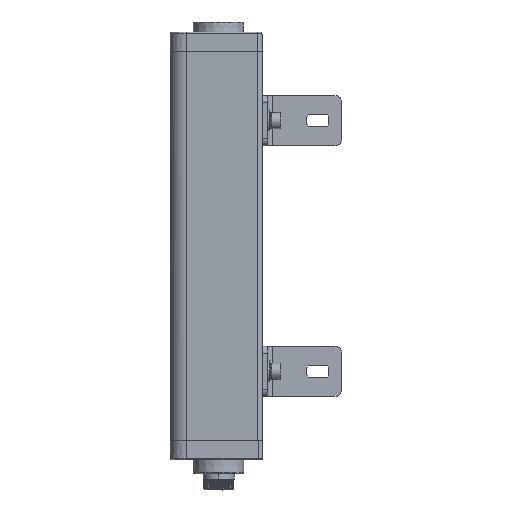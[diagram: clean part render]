
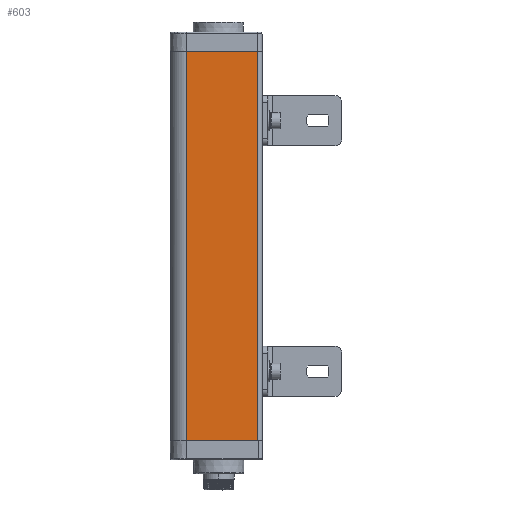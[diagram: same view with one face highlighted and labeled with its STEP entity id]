
A CAD part, left-side view. The second image highlights one B-rep face of the part: STEP entity #603.
In plain terms, the highlighted planar face has unit normal (-1, 0, 0).
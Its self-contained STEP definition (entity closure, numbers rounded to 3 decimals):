
#21=CARTESIAN_POINT('',(-17.5,18.206,0.));
#29=DIRECTION('',(0.,1.,0.));
#30=VECTOR('',#29,41.056);
#31=CARTESIAN_POINT('',(-17.5,-22.85,0.));
#32=LINE('',#31,#30);
#204=DIRECTION('',(0.,0.,1.));
#205=VECTOR('',#204,225.);
#206=CARTESIAN_POINT('',(-17.5,18.206,0.));
#207=LINE('',#206,#205);
#208=DIRECTION('',(0.,1.,0.));
#209=VECTOR('',#208,41.056);
#210=CARTESIAN_POINT('',(-17.5,-22.85,225.));
#211=LINE('',#210,#209);
#212=DIRECTION('',(0.,0.,-1.));
#213=VECTOR('',#212,225.);
#214=CARTESIAN_POINT('',(-17.5,-22.85,225.));
#215=LINE('',#214,#213);
#337=CARTESIAN_POINT('',(-17.5,-22.85,0.));
#339=VERTEX_POINT('',#337);
#350=VERTEX_POINT('',#21);
#399=CARTESIAN_POINT('',(-17.5,18.206,225.));
#400=VERTEX_POINT('',#399);
#405=CARTESIAN_POINT('',(-17.5,-22.85,225.));
#406=VERTEX_POINT('',#405);
#591=CARTESIAN_POINT('',(-17.5,18.206,1750.));
#592=DIRECTION('',(1.,0.,0.));
#593=DIRECTION('',(0.,0.,-1.));
#594=AXIS2_PLACEMENT_3D('',#591,#592,#593);
#595=PLANE('',#594);
#596=ORIENTED_EDGE('',*,*,#428,.T.);
#597=ORIENTED_EDGE('',*,*,#586,.T.);
#598=ORIENTED_EDGE('',*,*,#543,.F.);
#600=ORIENTED_EDGE('',*,*,#599,.T.);
#601=EDGE_LOOP('',(#596,#597,#598,#600));
#602=FACE_OUTER_BOUND('',#601,.F.);
#603=ADVANCED_FACE('',(#602),#595,.F.);
#428=EDGE_CURVE('',#339,#350,#32,.T.);
#543=EDGE_CURVE('',#406,#400,#211,.T.);
#586=EDGE_CURVE('',#350,#400,#207,.T.);
#599=EDGE_CURVE('',#406,#339,#215,.T.);
